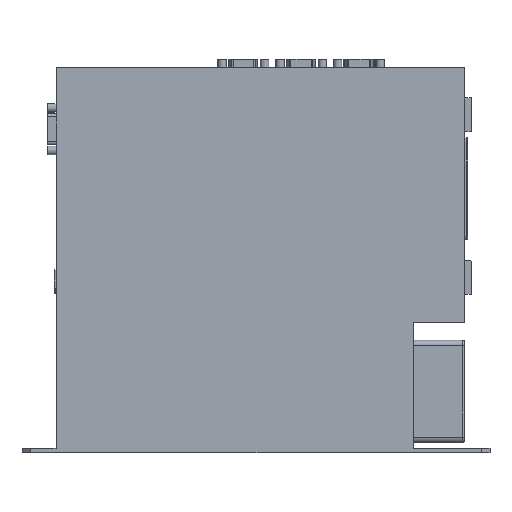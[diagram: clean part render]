
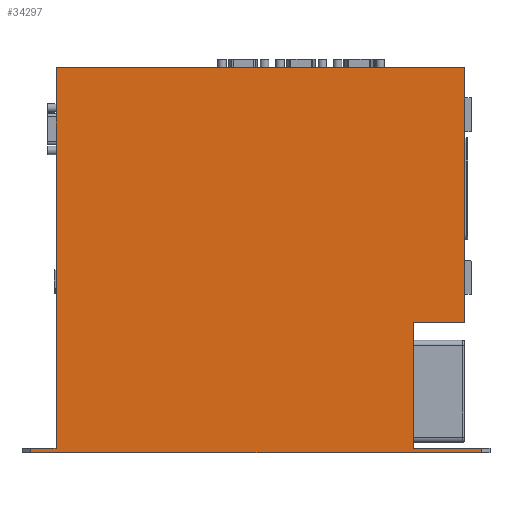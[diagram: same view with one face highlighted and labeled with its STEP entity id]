
A CAD part, left-side view. The second image highlights one B-rep face of the part: STEP entity #34297.
In plain terms, the highlighted planar face has unit normal (-1, 0, 0).
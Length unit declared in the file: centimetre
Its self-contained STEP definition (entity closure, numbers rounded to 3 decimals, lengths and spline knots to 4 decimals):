
#2468=VECTOR('',#36541,1.);
#2708=VECTOR('',#37024,1.);
#4724=VECTOR('',#39910,1.);
#5119=VECTOR('',#41385,1.);
#5122=VECTOR('',#41389,1.);
#5123=VECTOR('',#41391,1.);
#5124=VECTOR('',#41392,1.);
#5125=VECTOR('',#41393,1.);
#5126=VECTOR('',#41394,1.);
#5127=VECTOR('',#41395,1.);
#5472=LINE('',#43108,#2468);
#5712=LINE('',#44597,#2708);
#7728=LINE('',#56077,#4724);
#8123=LINE('',#57609,#5119);
#8126=LINE('',#57614,#5122);
#8127=LINE('',#57616,#5123);
#8128=LINE('',#57618,#5124);
#8129=LINE('',#57620,#5125);
#8130=LINE('',#57622,#5126);
#8131=LINE('',#57624,#5127);
#9150=PLANE('',#36014);
#9706=VERTEX_POINT('',#43102);
#9709=VERTEX_POINT('',#43107);
#10206=VERTEX_POINT('',#44596);
#11954=VERTEX_POINT('',#56074);
#12429=VERTEX_POINT('',#57608);
#12430=VERTEX_POINT('',#57610);
#12431=VERTEX_POINT('',#57617);
#12432=VERTEX_POINT('',#57619);
#12433=VERTEX_POINT('',#57621);
#12434=VERTEX_POINT('',#57623);
#13525=EDGE_CURVE('',#9706,#9709,#5472,.T.);
#14047=EDGE_CURVE('',#9709,#10206,#5712,.T.);
#17073=EDGE_CURVE('',#11954,#9706,#7728,.T.);
#17741=EDGE_CURVE('',#12430,#12429,#8123,.T.);
#17744=EDGE_CURVE('',#12429,#11954,#8126,.T.);
#17745=EDGE_CURVE('',#12431,#12430,#8127,.T.);
#17746=EDGE_CURVE('',#10206,#12432,#8128,.T.);
#17747=EDGE_CURVE('',#12433,#12432,#8129,.T.);
#17748=EDGE_CURVE('',#12434,#12433,#8130,.T.);
#17749=EDGE_CURVE('',#12434,#12431,#8131,.T.);
#27411=ORIENTED_EDGE('',*,*,#17745,.T.);
#27412=ORIENTED_EDGE('',*,*,#17741,.T.);
#27413=ORIENTED_EDGE('',*,*,#17744,.T.);
#27414=ORIENTED_EDGE('',*,*,#17073,.T.);
#27415=ORIENTED_EDGE('',*,*,#13525,.T.);
#27416=ORIENTED_EDGE('',*,*,#14047,.T.);
#27417=ORIENTED_EDGE('',*,*,#17746,.T.);
#27418=ORIENTED_EDGE('',*,*,#17747,.F.);
#27419=ORIENTED_EDGE('',*,*,#17748,.F.);
#27420=ORIENTED_EDGE('',*,*,#17749,.T.);
#29932=EDGE_LOOP('',(#27411,#27412,#27413,#27414,#27415,#27416,#27417,#27418,
#27419,#27420));
#32324=FACE_BOUND('',#29932,.T.);
#34297=ADVANCED_FACE('',(#32324),#9150,.T.);
#36014=AXIS2_PLACEMENT_3D('',#57615,#41390,$);
#36541=DIRECTION('',(0.,1.,0.));
#37024=DIRECTION('',(0.,0.,-1.));
#39910=DIRECTION('',(0.,0.,1.));
#41385=DIRECTION('',(0.,0.,1.));
#41389=DIRECTION('',(0.,-1.,0.));
#41390=DIRECTION('',(-1.,0.,0.));
#41391=DIRECTION('',(0.,1.,0.));
#41392=DIRECTION('',(0.,1.,0.));
#41393=DIRECTION('',(0.,0.,1.));
#41394=DIRECTION('',(0.,1.,0.));
#41395=DIRECTION('',(0.,0.,1.));
#43102=CARTESIAN_POINT('',(0.,1.5,22.6));
#43107=CARTESIAN_POINT('',(0.,25.5,22.6));
#43108=CARTESIAN_POINT('',(0.,0.5,22.6));
#44596=CARTESIAN_POINT('',(0.,25.5,0.25));
#44597=CARTESIAN_POINT('',(0.,25.5,11.3));
#56074=CARTESIAN_POINT('',(0.,1.5,7.65));
#56077=CARTESIAN_POINT('',(0.,1.5,11.3));
#57608=CARTESIAN_POINT('',(0.,4.5,7.65));
#57609=CARTESIAN_POINT('',(0.,4.5,1.975));
#57610=CARTESIAN_POINT('',(0.,4.5,0.25));
#57614=CARTESIAN_POINT('',(0.,7.625,7.65));
#57615=CARTESIAN_POINT('',(0.,13.75,0.));
#57616=CARTESIAN_POINT('',(0.,7.625,0.25));
#57617=CARTESIAN_POINT('',(0.,0.5,0.25));
#57618=CARTESIAN_POINT('',(0.,20.2375,0.25));
#57619=CARTESIAN_POINT('',(0.,27.,0.25));
#57620=CARTESIAN_POINT('',(0.,27.,0.));
#57621=CARTESIAN_POINT('',(0.,27.,0.));
#57622=CARTESIAN_POINT('',(0.,0.5,0.));
#57623=CARTESIAN_POINT('',(0.,0.5,0.));
#57624=CARTESIAN_POINT('',(0.,0.5,0.));
